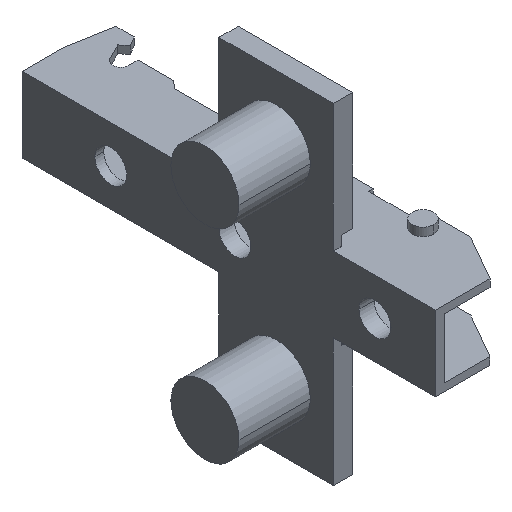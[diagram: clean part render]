
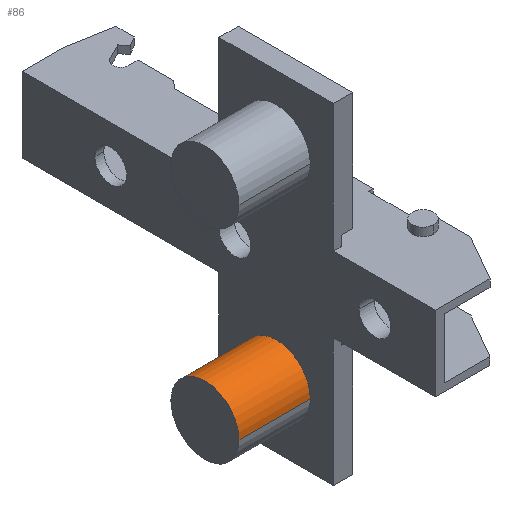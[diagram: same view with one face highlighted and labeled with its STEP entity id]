
A CAD part, isometric view. The second image highlights one B-rep face of the part: STEP entity #86.
In plain terms, the highlighted cylindrical face has radius 5.35 mm (diameter 10.7 mm), a partial arc.
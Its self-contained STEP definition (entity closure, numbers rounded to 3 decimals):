
#86 = ADVANCED_FACE ( 'NONE', ( #2597 ), #2595, .T. ) ;
#179 = LINE ( 'NONE', #1194, #184 ) ;
#184 = VECTOR ( 'NONE', #1195, 1000. ) ;
#508 = ORIENTED_EDGE ( 'NONE', *, *, #2934, .F. ) ;
#512 = ORIENTED_EDGE ( 'NONE', *, *, #3100, .T. ) ;
#513 = ORIENTED_EDGE ( 'NONE', *, *, #2952, .T. ) ;
#1073 = EDGE_LOOP ( 'NONE', ( #1168, #508, #512, #513 ) ) ;
#1168 = ORIENTED_EDGE ( 'NONE', *, *, #2895, .F. ) ;
#1194 = CARTESIAN_POINT ( 'NONE',  ( -11.2, -5.35, -16. ) ) ;
#1195 = DIRECTION ( 'NONE',  ( 1., 0., 0. ) ) ;
#1430 = DIRECTION ( 'NONE',  ( 0., 1., 0. ) ) ;
#1435 = DIRECTION ( 'NONE',  ( -1., 0., 0. ) ) ;
#1445 = CARTESIAN_POINT ( 'NONE',  ( -11.2, 0., -16. ) ) ;
#1472 = DIRECTION ( 'NONE',  ( 0., 1., 0. ) ) ;
#1473 = CARTESIAN_POINT ( 'NONE',  ( 0., 0., -16. ) ) ;
#1475 = DIRECTION ( 'NONE',  ( -1., 0., 0. ) ) ;
#1760 = DIRECTION ( 'NONE',  ( 0., -1., 0. ) ) ;
#1821 = CARTESIAN_POINT ( 'NONE',  ( -11.2, 0., -16. ) ) ;
#1879 = DIRECTION ( 'NONE',  ( 1., 0., 0. ) ) ;
#1902 = CARTESIAN_POINT ( 'NONE',  ( 0., -5.35, -16. ) ) ;
#1907 = CARTESIAN_POINT ( 'NONE',  ( -11.2, 5.35, -16. ) ) ;
#2084 = CARTESIAN_POINT ( 'NONE',  ( -11.2, -5.35, -16. ) ) ;
#2086 = CARTESIAN_POINT ( 'NONE',  ( 0., 5.35, -16. ) ) ;
#2173 = DIRECTION ( 'NONE',  ( 1., 0., 0. ) ) ;
#2200 = CARTESIAN_POINT ( 'NONE',  ( -11.2, 5.35, -16. ) ) ;
#2299 = VERTEX_POINT ( 'NONE', #2086 ) ;
#2300 = VERTEX_POINT ( 'NONE', #1902 ) ;
#2301 = VERTEX_POINT ( 'NONE', #1907 ) ;
#2304 = VERTEX_POINT ( 'NONE', #2084 ) ;
#2449 = CIRCLE ( 'NONE', #3042, 5.35 ) ;
#2476 = CIRCLE ( 'NONE', #3006, 5.35 ) ;
#2515 = VECTOR ( 'NONE', #2173, 1000. ) ;
#2521 = LINE ( 'NONE', #2200, #2515 ) ;
#2595 = CYLINDRICAL_SURFACE ( 'NONE', #2874, 5.35 ) ;
#2597 = FACE_OUTER_BOUND ( 'NONE', #1073, .T. ) ;
#2874 = AXIS2_PLACEMENT_3D ( 'NONE', #1821, #1879, #1760 ) ;
#2895 = EDGE_CURVE ( 'NONE', #2301, #2299, #2521, .T. ) ;
#2934 = EDGE_CURVE ( 'NONE', #2304, #2301, #2476, .T. ) ;
#2952 = EDGE_CURVE ( 'NONE', #2300, #2299, #2449, .T. ) ;
#3006 = AXIS2_PLACEMENT_3D ( 'NONE', #1445, #1435, #1430 ) ;
#3042 = AXIS2_PLACEMENT_3D ( 'NONE', #1473, #1475, #1472 ) ;
#3100 = EDGE_CURVE ( 'NONE', #2304, #2300, #179, .T. ) ;
